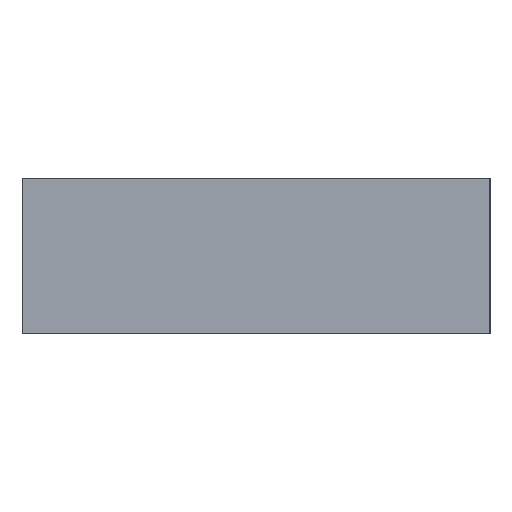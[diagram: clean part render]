
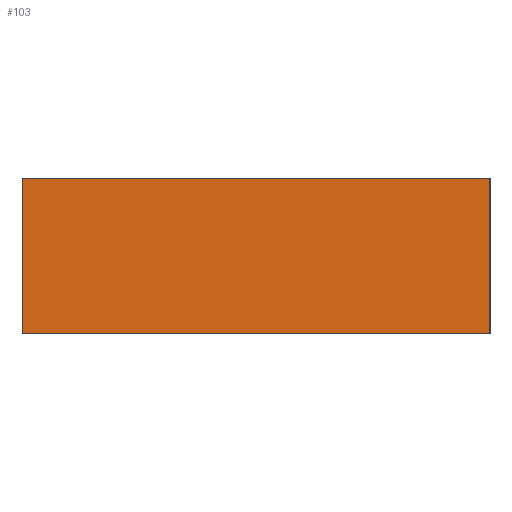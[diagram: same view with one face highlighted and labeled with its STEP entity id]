
A CAD part, left-side view. The second image highlights one B-rep face of the part: STEP entity #103.
In plain terms, the highlighted planar face has unit normal (-1, 0, 0).
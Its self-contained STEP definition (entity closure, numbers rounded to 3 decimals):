
#17=FACE_OUTER_BOUND('',#23,.T.);
#23=EDGE_LOOP('',(#79,#80,#81,#82));
#33=LINE('',#174,#45);
#34=LINE('',#177,#46);
#35=LINE('',#179,#47);
#36=LINE('',#180,#48);
#45=VECTOR('',#145,10.);
#46=VECTOR('',#148,10.);
#47=VECTOR('',#149,10.);
#48=VECTOR('',#150,10.);
#55=VERTEX_POINT('',#170);
#56=VERTEX_POINT('',#172);
#57=VERTEX_POINT('',#176);
#58=VERTEX_POINT('',#178);
#65=EDGE_CURVE('',#55,#56,#33,.T.);
#66=EDGE_CURVE('',#57,#55,#34,.T.);
#67=EDGE_CURVE('',#58,#56,#35,.T.);
#68=EDGE_CURVE('',#57,#58,#36,.T.);
#79=ORIENTED_EDGE('',*,*,#66,.T.);
#80=ORIENTED_EDGE('',*,*,#65,.T.);
#81=ORIENTED_EDGE('',*,*,#67,.F.);
#82=ORIENTED_EDGE('',*,*,#68,.F.);
#97=PLANE('',#129);
#103=ADVANCED_FACE('',(#17),#97,.T.);
#129=AXIS2_PLACEMENT_3D('',#175,#146,#147);
#145=DIRECTION('',(0.,0.,1.));
#146=DIRECTION('center_axis',(-1.,0.,0.));
#147=DIRECTION('ref_axis',(0.,-1.,0.));
#148=DIRECTION('',(0.,-1.,0.));
#149=DIRECTION('',(0.,-1.,0.));
#150=DIRECTION('',(0.,0.,1.));
#170=CARTESIAN_POINT('',(-38.,-3.,0.));
#172=CARTESIAN_POINT('',(-38.,-3.,2.));
#174=CARTESIAN_POINT('',(-38.,-3.,0.));
#175=CARTESIAN_POINT('Origin',(-38.,3.,0.));
#176=CARTESIAN_POINT('',(-38.,3.,0.));
#177=CARTESIAN_POINT('',(-38.,3.,0.));
#178=CARTESIAN_POINT('',(-38.,3.,2.));
#179=CARTESIAN_POINT('',(-38.,3.,2.));
#180=CARTESIAN_POINT('',(-38.,3.,0.));
